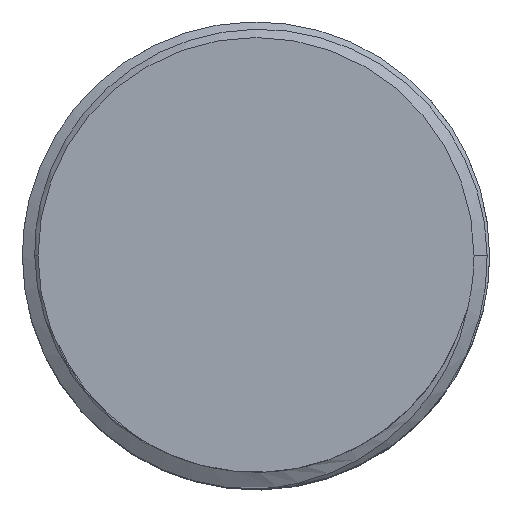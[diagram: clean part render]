
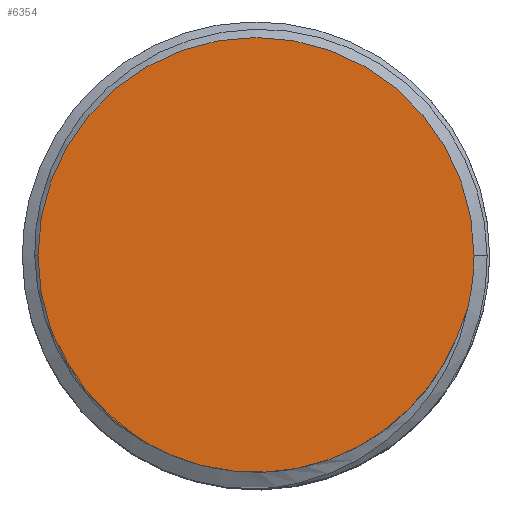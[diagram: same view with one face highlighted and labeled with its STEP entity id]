
A CAD part, top view. The second image highlights one B-rep face of the part: STEP entity #6354.
In plain terms, the highlighted planar face has unit normal (0, 0, 1).
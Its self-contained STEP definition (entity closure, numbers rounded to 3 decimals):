
#60 = CARTESIAN_POINT ( 'NONE',  ( 11.047, -8.478, 60. ) ) ;
#100 = CARTESIAN_POINT ( 'NONE',  ( 11.321, -8.107, 60. ) ) ;
#270 = EDGE_CURVE ( 'NONE', #5867, #6861, #1678, .T. ) ;
#366 = B_SPLINE_CURVE_WITH_KNOTS ( 'NONE', 3,
 ( #3206, #5232, #5811, #6432, #3084, #1187, #5932, #8536, #1758, #3832, #7760, #2503, #7921, #2460, #1882, #4569, #1794, #8618, #5063, #5770, #5145, #8455, #7134, #60, #100, #7388, #668, #2100 ),
 .UNSPECIFIED., .F., .F.,
 ( 4, 2, 2, 2, 2, 2, 2, 2, 2, 2, 2, 2, 2, 4 ),
 ( 0., 0.001, 0.003, 0.004, 0.006, 0.008, 0.01, 0.011, 0.014, 0.015, 0.017, 0.018, 0.019, 0.022 ),
 .UNSPECIFIED. ) ;
#486 = ORIENTED_EDGE ( 'NONE', *, *, #5869, .T. ) ;
#534 = VERTEX_POINT ( 'NONE', #5644 ) ;
#660 = VERTEX_POINT ( 'NONE', #5825 ) ;
#668 = CARTESIAN_POINT ( 'NONE',  ( 12.514, -6.16, 60. ) ) ;
#800 = EDGE_LOOP ( 'NONE', ( #2221, #486, #8087, #5197, #7476, #7113 ) ) ;
#1125 = CIRCLE ( 'NONE', #8563, 14. ) ;
#1187 = CARTESIAN_POINT ( 'NONE',  ( -2.279, -13.737, 60. ) ) ;
#1254 = CARTESIAN_POINT ( 'NONE',  ( -5.348, -12.849, 60. ) ) ;
#1393 = CARTESIAN_POINT ( 'NONE',  ( 0., 0., 60. ) ) ;
#1409 = DIRECTION ( 'NONE',  ( 1., 0., 0. ) ) ;
#1503 = DIRECTION ( 'NONE',  ( 0., 0., 1. ) ) ;
#1678 = CIRCLE ( 'NONE', #5324, 14. ) ;
#1758 = CARTESIAN_POINT ( 'NONE',  ( -0.461, -13.917, 60. ) ) ;
#1794 = CARTESIAN_POINT ( 'NONE',  ( 6.97, -12.081, 60. ) ) ;
#1882 = CARTESIAN_POINT ( 'NONE',  ( 4.912, -13.03, 60. ) ) ;
#1990 = DIRECTION ( 'NONE',  ( 0., 0., 1. ) ) ;
#2033 = CARTESIAN_POINT ( 'NONE',  ( 13.393, -4.043, 60. ) ) ;
#2100 = CARTESIAN_POINT ( 'NONE',  ( 12.864, -5.31, 60. ) ) ;
#2221 = ORIENTED_EDGE ( 'NONE', *, *, #8448, .T. ) ;
#2460 = CARTESIAN_POINT ( 'NONE',  ( 4.484, -13.183, 60. ) ) ;
#2503 = CARTESIAN_POINT ( 'NONE',  ( 3.161, -13.561, 60. ) ) ;
#2749 = EDGE_CURVE ( 'NONE', #660, #5867, #2787, .T. ) ;
#2787 = CIRCLE ( 'NONE', #5460, 14. ) ;
#3084 = CARTESIAN_POINT ( 'NONE',  ( -3.171, -13.559, 60. ) ) ;
#3107 = VERTEX_POINT ( 'NONE', #5627 ) ;
#3206 = CARTESIAN_POINT ( 'NONE',  ( -5.348, -12.849, 60. ) ) ;
#3278 = CARTESIAN_POINT ( 'NONE',  ( -5.996, -12.595, 60. ) ) ;
#3296 = DIRECTION ( 'NONE',  ( 0., 0., 1. ) ) ;
#3315 = CARTESIAN_POINT ( 'NONE',  ( 14., 0., 60. ) ) ;
#3401 = DIRECTION ( 'NONE',  ( 1., 0., 0. ) ) ;
#3426 = B_SPLINE_CURVE_WITH_KNOTS ( 'NONE', 3,
 ( #6666, #5217, #5260, #3278, #7826, #1254 ),
 .UNSPECIFIED., .F., .F.,
 ( 4, 2, 4 ),
 ( 0.012, 0.013, 0.014 ),
 .UNSPECIFIED. ) ;
#3537 = CARTESIAN_POINT ( 'NONE',  ( 0., 0., 60. ) ) ;
#3832 = CARTESIAN_POINT ( 'NONE',  ( 0.913, -13.918, 60. ) ) ;
#3942 = CARTESIAN_POINT ( 'NONE',  ( 0., 0., 60. ) ) ;
#4157 = CARTESIAN_POINT ( 'NONE',  ( 13.585, -3.384, 60. ) ) ;
#4319 = B_SPLINE_CURVE_WITH_KNOTS ( 'NONE', 3,
 ( #4634, #5380, #2033, #4157 ),
 .UNSPECIFIED., .F., .F.,
 ( 4, 4 ),
 ( 0., 0.002 ),
 .UNSPECIFIED. ) ;
#4322 = EDGE_CURVE ( 'NONE', #534, #3107, #3426, .T. ) ;
#4445 = CARTESIAN_POINT ( 'NONE',  ( 0., 0., 60. ) ) ;
#4569 = CARTESIAN_POINT ( 'NONE',  ( 6.169, -12.509, 60. ) ) ;
#4634 = CARTESIAN_POINT ( 'NONE',  ( 12.864, -5.31, 60. ) ) ;
#5063 = CARTESIAN_POINT ( 'NONE',  ( 8.483, -11.043, 60. ) ) ;
#5145 = CARTESIAN_POINT ( 'NONE',  ( 9.521, -10.161, 60. ) ) ;
#5197 = ORIENTED_EDGE ( 'NONE', *, *, #270, .T. ) ;
#5217 = CARTESIAN_POINT ( 'NONE',  ( -6.939, -12.148, 60. ) ) ;
#5232 = CARTESIAN_POINT ( 'NONE',  ( -4.924, -13.026, 60. ) ) ;
#5260 = CARTESIAN_POINT ( 'NONE',  ( -6.628, -12.305, 60. ) ) ;
#5324 = AXIS2_PLACEMENT_3D ( 'NONE', #3537, #1503, #1409 ) ;
#5380 = CARTESIAN_POINT ( 'NONE',  ( 13.153, -4.685, 60. ) ) ;
#5383 = CARTESIAN_POINT ( 'NONE',  ( 12.864, -5.31, 60. ) ) ;
#5460 = AXIS2_PLACEMENT_3D ( 'NONE', #1393, #3296, #8662 ) ;
#5466 = AXIS2_PLACEMENT_3D ( 'NONE', #4445, #7836, #7130 ) ;
#5627 = CARTESIAN_POINT ( 'NONE',  ( -5.348, -12.849, 60. ) ) ;
#5644 = CARTESIAN_POINT ( 'NONE',  ( -7.242, -11.981, 60. ) ) ;
#5680 = EDGE_CURVE ( 'NONE', #6861, #534, #1125, .T. ) ;
#5770 = CARTESIAN_POINT ( 'NONE',  ( 9.185, -10.466, 60. ) ) ;
#5811 = CARTESIAN_POINT ( 'NONE',  ( -4.49, -13.181, 60. ) ) ;
#5825 = CARTESIAN_POINT ( 'NONE',  ( 13.585, -3.384, 60. ) ) ;
#5867 = VERTEX_POINT ( 'NONE', #3315 ) ;
#5869 = EDGE_CURVE ( 'NONE', #7838, #660, #4319, .T. ) ;
#5932 = CARTESIAN_POINT ( 'NONE',  ( -1.829, -13.804, 60. ) ) ;
#6354 = ADVANCED_FACE ( 'NONE', ( #6549 ), #7917, .T. ) ;
#6432 = CARTESIAN_POINT ( 'NONE',  ( -3.614, -13.448, 60. ) ) ;
#6549 = FACE_OUTER_BOUND ( 'NONE', #800, .T. ) ;
#6666 = CARTESIAN_POINT ( 'NONE',  ( -7.242, -11.981, 60. ) ) ;
#6861 = VERTEX_POINT ( 'NONE', #8304 ) ;
#7113 = ORIENTED_EDGE ( 'NONE', *, *, #4322, .T. ) ;
#7130 = DIRECTION ( 'NONE',  ( 1., 0., 0. ) ) ;
#7134 = CARTESIAN_POINT ( 'NONE',  ( 10.468, -9.183, 60. ) ) ;
#7388 = CARTESIAN_POINT ( 'NONE',  ( 12.084, -6.966, 60. ) ) ;
#7476 = ORIENTED_EDGE ( 'NONE', *, *, #5680, .T. ) ;
#7760 = CARTESIAN_POINT ( 'NONE',  ( 1.818, -13.828, 60. ) ) ;
#7826 = CARTESIAN_POINT ( 'NONE',  ( -5.675, -12.728, 60. ) ) ;
#7836 = DIRECTION ( 'NONE',  ( 0., 0., 1. ) ) ;
#7838 = VERTEX_POINT ( 'NONE', #5383 ) ;
#7917 = PLANE ( 'NONE',  #5466 ) ;
#7921 = CARTESIAN_POINT ( 'NONE',  ( 3.609, -13.449, 60. ) ) ;
#8087 = ORIENTED_EDGE ( 'NONE', *, *, #2749, .T. ) ;
#8304 = CARTESIAN_POINT ( 'NONE',  ( -14., 0., 60. ) ) ;
#8448 = EDGE_CURVE ( 'NONE', #3107, #7838, #366, .T. ) ;
#8455 = CARTESIAN_POINT ( 'NONE',  ( 10.162, -9.52, 60. ) ) ;
#8536 = CARTESIAN_POINT ( 'NONE',  ( -0.921, -13.894, 60. ) ) ;
#8563 = AXIS2_PLACEMENT_3D ( 'NONE', #3942, #1990, #3401 ) ;
#8618 = CARTESIAN_POINT ( 'NONE',  ( 8.115, -11.316, 60. ) ) ;
#8662 = DIRECTION ( 'NONE',  ( 1., 0., 0. ) ) ;
